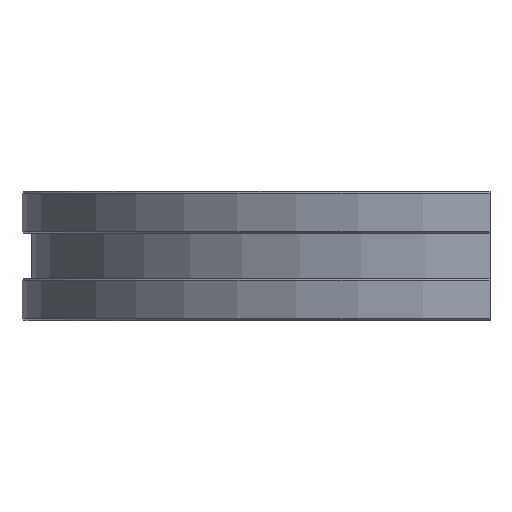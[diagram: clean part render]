
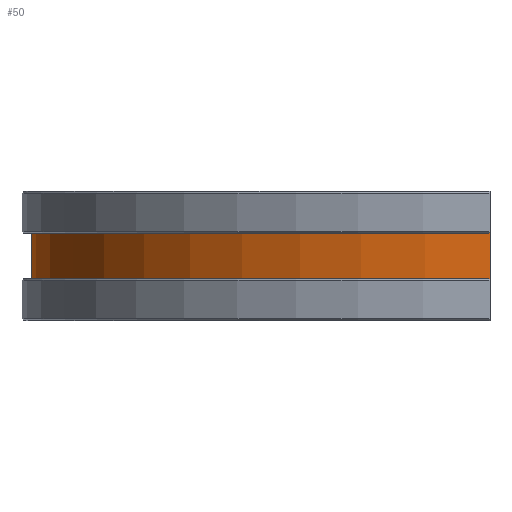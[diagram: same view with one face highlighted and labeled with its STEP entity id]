
A CAD part, front view. The second image highlights one B-rep face of the part: STEP entity #50.
In plain terms, the highlighted cylindrical face has radius 141.95 mm (diameter 283.9 mm), a partial arc.
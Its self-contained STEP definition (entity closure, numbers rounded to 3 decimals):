
#23 = VERTEX_POINT ( 'NONE', #261 ) ;
#34 = EDGE_CURVE ( 'NONE', #66, #23, #191, .T. ) ;
#35 = ORIENTED_EDGE ( 'NONE', *, *, #295, .F. ) ;
#36 = ORIENTED_EDGE ( 'NONE', *, *, #37, .F. ) ;
#37 = EDGE_CURVE ( 'NONE', #105, #67, #187, .T. ) ;
#39 = ORIENTED_EDGE ( 'NONE', *, *, #106, .T. ) ;
#50 = ADVANCED_FACE ( 'NONE', ( #234 ), #233, .T. ) ;
#51 = ORIENTED_EDGE ( 'NONE', *, *, #34, .F. ) ;
#66 = VERTEX_POINT ( 'NONE', #157 ) ;
#67 = VERTEX_POINT ( 'NONE', #156 ) ;
#68 = EDGE_LOOP ( 'NONE', ( #51, #35, #36, #39 ) ) ;
#105 = VERTEX_POINT ( 'NONE', #355 ) ;
#106 = EDGE_CURVE ( 'NONE', #105, #23, #352, .T. ) ;
#156 = CARTESIAN_POINT ( 'NONE',  ( -141.95, 0., 7. ) ) ;
#157 = CARTESIAN_POINT ( 'NONE',  ( 0., -141.95, 7. ) ) ;
#184 = DIRECTION ( 'NONE',  ( 0., 0., 1. ) ) ;
#185 = VECTOR ( 'NONE', #184, 1000. ) ;
#186 = CARTESIAN_POINT ( 'NONE',  ( -141.95, 0., 50. ) ) ;
#187 = LINE ( 'NONE', #186, #185 ) ;
#188 = DIRECTION ( 'NONE',  ( 0., 0., -1. ) ) ;
#189 = VECTOR ( 'NONE', #188, 1000. ) ;
#190 = CARTESIAN_POINT ( 'NONE',  ( 0., -141.95, 50. ) ) ;
#191 = LINE ( 'NONE', #190, #189 ) ;
#229 = DIRECTION ( 'NONE',  ( 1., 0., 0. ) ) ;
#230 = DIRECTION ( 'NONE',  ( 0., 0., 1. ) ) ;
#231 = AXIS2_PLACEMENT_3D ( 'NONE', #240, #230, #229 ) ;
#233 = CYLINDRICAL_SURFACE ( 'NONE', #231, 141.95 ) ;
#234 = FACE_OUTER_BOUND ( 'NONE', #68, .T. ) ;
#240 = CARTESIAN_POINT ( 'NONE',  ( 0., 0., 50. ) ) ;
#261 = CARTESIAN_POINT ( 'NONE',  ( 0., -141.95, -7. ) ) ;
#295 = EDGE_CURVE ( 'NONE', #67, #66, #479, .T. ) ;
#348 = DIRECTION ( 'NONE',  ( 1., 0., 0. ) ) ;
#349 = DIRECTION ( 'NONE',  ( 0., 0., 1. ) ) ;
#350 = CARTESIAN_POINT ( 'NONE',  ( 0., 0., -7. ) ) ;
#351 = AXIS2_PLACEMENT_3D ( 'NONE', #350, #349, #348 ) ;
#352 = CIRCLE ( 'NONE', #351, 141.95 ) ;
#355 = CARTESIAN_POINT ( 'NONE',  ( -141.95, 0., -7. ) ) ;
#377 = CARTESIAN_POINT ( 'NONE',  ( 0., 0., 7. ) ) ;
#476 = DIRECTION ( 'NONE',  ( 1., 0., 0. ) ) ;
#477 = DIRECTION ( 'NONE',  ( 0., 0., 1. ) ) ;
#478 = AXIS2_PLACEMENT_3D ( 'NONE', #377, #477, #476 ) ;
#479 = CIRCLE ( 'NONE', #478, 141.95 ) ;
